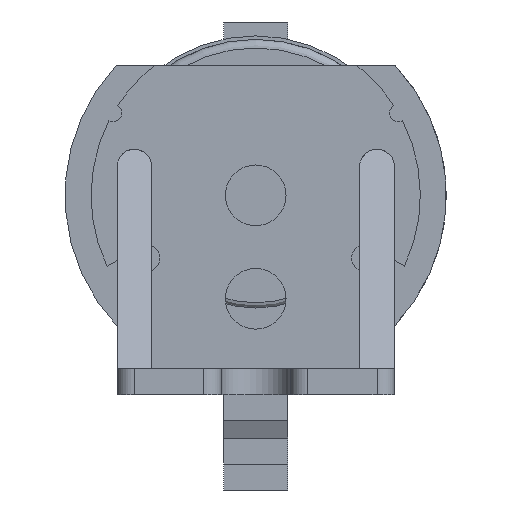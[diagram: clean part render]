
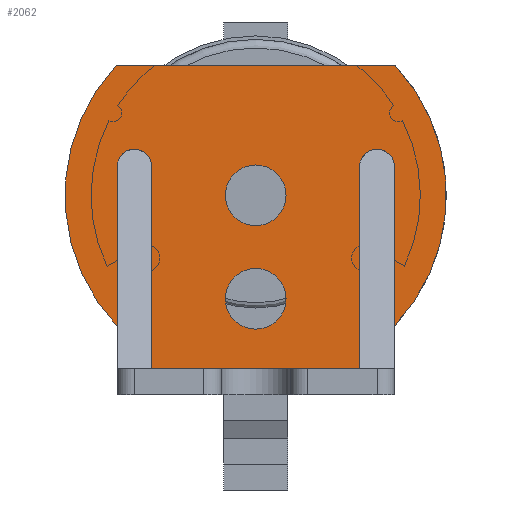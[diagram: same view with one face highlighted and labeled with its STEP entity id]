
A CAD part, left-side view. The second image highlights one B-rep face of the part: STEP entity #2062.
In plain terms, the highlighted planar face has unit normal (-1, 0, 0).
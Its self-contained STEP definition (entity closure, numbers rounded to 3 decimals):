
#14=CARTESIAN_POINT('',(4.,-7.,14.161));
#34=DIRECTION('',(0.,1.,0.));
#35=VECTOR('',#34,12.);
#36=CARTESIAN_POINT('',(4.,-6.,1.5));
#37=LINE('',#36,#35);
#87=CARTESIAN_POINT('',(4.,7.,13.161));
#88=DIRECTION('',(1.,0.,0.));
#89=DIRECTION('',(0.,1.,0.));
#90=AXIS2_PLACEMENT_3D('',#87,#88,#89);
#92=DIRECTION('',(0.,1.,0.));
#93=VECTOR('',#92,16.093);
#94=CARTESIAN_POINT('',(4.,-8.047,19.));
#95=LINE('',#94,#93);
#96=CARTESIAN_POINT('',(4.,0.,11.5));
#97=DIRECTION('',(-1.,0.,0.));
#98=DIRECTION('',(0.,-0.727,-0.686));
#99=AXIS2_PLACEMENT_3D('',#96,#97,#98);
#101=DIRECTION('',(0.,0.,-1.));
#102=VECTOR('',#101,9.211);
#103=CARTESIAN_POINT('',(4.,-8.,13.161));
#104=LINE('',#103,#102);
#105=CARTESIAN_POINT('',(4.,-7.,13.161));
#106=DIRECTION('',(1.,0.,0.));
#107=DIRECTION('',(0.,0.,1.));
#108=AXIS2_PLACEMENT_3D('',#105,#106,#107);
#110=CARTESIAN_POINT('',(4.,-7.,13.161));
#111=DIRECTION('',(1.,0.,0.));
#112=DIRECTION('',(0.,1.,0.));
#113=AXIS2_PLACEMENT_3D('',#110,#111,#112);
#115=DIRECTION('',(0.,0.,-1.));
#116=VECTOR('',#115,11.661);
#117=CARTESIAN_POINT('',(4.,6.,13.161));
#118=LINE('',#117,#116);
#119=CARTESIAN_POINT('',(4.,7.,13.161));
#120=DIRECTION('',(1.,0.,0.));
#121=DIRECTION('',(0.,0.,1.));
#122=AXIS2_PLACEMENT_3D('',#119,#120,#121);
#124=CARTESIAN_POINT('',(4.,0.,5.53));
#125=DIRECTION('',(1.,0.,0.));
#126=DIRECTION('',(0.,1.,0.));
#127=AXIS2_PLACEMENT_3D('',#124,#125,#126);
#129=CARTESIAN_POINT('',(4.,0.,5.53));
#130=DIRECTION('',(1.,0.,0.));
#131=DIRECTION('',(0.,-1.,0.));
#132=AXIS2_PLACEMENT_3D('',#129,#130,#131);
#134=CARTESIAN_POINT('',(4.,0.,11.5));
#135=DIRECTION('',(1.,0.,0.));
#136=DIRECTION('',(0.,1.,0.));
#137=AXIS2_PLACEMENT_3D('',#134,#135,#136);
#139=CARTESIAN_POINT('',(4.,0.,11.5));
#140=DIRECTION('',(1.,0.,0.));
#141=DIRECTION('',(0.,-1.,0.));
#142=AXIS2_PLACEMENT_3D('',#139,#140,#141);
#152=DIRECTION('',(0.,0.,-1.));
#153=VECTOR('',#152,9.211);
#154=CARTESIAN_POINT('',(4.,8.,13.161));
#155=LINE('',#154,#153);
#1353=CARTESIAN_POINT('',(4.,0.,11.5));
#1354=DIRECTION('',(-1.,0.,0.));
#1355=DIRECTION('',(0.,0.732,0.682));
#1356=AXIS2_PLACEMENT_3D('',#1353,#1354,#1355);
#1478=CARTESIAN_POINT('',(4.,7.,14.161));
#1502=DIRECTION('',(0.,0.,-1.));
#1503=VECTOR('',#1502,11.661);
#1504=CARTESIAN_POINT('',(4.,-6.,13.161));
#1505=LINE('',#1504,#1503);
#1710=CARTESIAN_POINT('',(4.,6.,1.5));
#1712=VERTEX_POINT('',#1710);
#1740=CARTESIAN_POINT('',(4.,-6.,1.5));
#1741=VERTEX_POINT('',#1740);
#1804=CARTESIAN_POINT('',(4.,8.047,19.));
#1806=VERTEX_POINT('',#1804);
#1809=CARTESIAN_POINT('',(4.,-8.047,19.));
#1811=VERTEX_POINT('',#1809);
#1814=CARTESIAN_POINT('',(4.,-8.,3.95));
#1816=VERTEX_POINT('',#1814);
#1830=CARTESIAN_POINT('',(4.,8.,13.161));
#1831=VERTEX_POINT('',#1830);
#1860=VERTEX_POINT('',#1478);
#1861=VERTEX_POINT('',#14);
#1863=CARTESIAN_POINT('',(4.,-6.,13.161));
#1864=VERTEX_POINT('',#1863);
#1865=CARTESIAN_POINT('',(4.,-1.75,11.5));
#1866=VERTEX_POINT('',#1865);
#1867=CARTESIAN_POINT('',(4.,1.75,11.5));
#1868=VERTEX_POINT('',#1867);
#1869=CARTESIAN_POINT('',(4.,-1.75,5.53));
#1870=VERTEX_POINT('',#1869);
#1871=CARTESIAN_POINT('',(4.,1.75,5.53));
#1872=VERTEX_POINT('',#1871);
#1877=CARTESIAN_POINT('',(4.,8.,3.95));
#1878=VERTEX_POINT('',#1877);
#1879=CARTESIAN_POINT('',(4.,-8.,13.161));
#1880=VERTEX_POINT('',#1879);
#1881=CARTESIAN_POINT('',(4.,6.,13.161));
#1882=VERTEX_POINT('',#1881);
#2023=CARTESIAN_POINT('',(4.,0.,11.5));
#2024=DIRECTION('',(-1.,0.,0.));
#2025=DIRECTION('',(0.,-1.,0.));
#2026=AXIS2_PLACEMENT_3D('',#2023,#2024,#2025);
#2027=PLANE('',#2026);
#2029=ORIENTED_EDGE('',*,*,#2028,.F.);
#2031=ORIENTED_EDGE('',*,*,#2030,.T.);
#2033=ORIENTED_EDGE('',*,*,#2032,.F.);
#2035=ORIENTED_EDGE('',*,*,#2034,.F.);
#2037=ORIENTED_EDGE('',*,*,#2036,.F.);
#2038=ORIENTED_EDGE('',*,*,#1925,.F.);
#2040=ORIENTED_EDGE('',*,*,#2039,.F.);
#2042=ORIENTED_EDGE('',*,*,#2041,.F.);
#2044=ORIENTED_EDGE('',*,*,#2043,.T.);
#2045=ORIENTED_EDGE('',*,*,#1964,.T.);
#2046=ORIENTED_EDGE('',*,*,#2002,.F.);
#2047=ORIENTED_EDGE('',*,*,#2015,.F.);
#2048=EDGE_LOOP('',(#2029,#2031,#2033,#2035,#2037,#2038,#2040,#2042,#2044,#2045,
#2046,#2047));
#2049=FACE_OUTER_BOUND('',#2048,.F.);
#2051=ORIENTED_EDGE('',*,*,#2050,.F.);
#2053=ORIENTED_EDGE('',*,*,#2052,.F.);
#2054=EDGE_LOOP('',(#2051,#2053));
#2055=FACE_BOUND('',#2054,.F.);
#2057=ORIENTED_EDGE('',*,*,#2056,.F.);
#2059=ORIENTED_EDGE('',*,*,#2058,.F.);
#2060=EDGE_LOOP('',(#2057,#2059));
#2061=FACE_BOUND('',#2060,.F.);
#2062=ADVANCED_FACE('',(#2049,#2055,#2061),#2027,.T.);
#91=CIRCLE('',#90,1.);
#100=CIRCLE('',#99,11.);
#109=CIRCLE('',#108,1.);
#114=CIRCLE('',#113,1.);
#123=CIRCLE('',#122,1.);
#128=CIRCLE('',#127,1.75);
#133=CIRCLE('',#132,1.75);
#138=CIRCLE('',#137,1.75);
#143=CIRCLE('',#142,1.75);
#1357=CIRCLE('',#1356,11.);
#1925=EDGE_CURVE('',#1880,#1816,#104,.T.);
#1964=EDGE_CURVE('',#1741,#1712,#37,.T.);
#2002=EDGE_CURVE('',#1882,#1712,#118,.T.);
#2015=EDGE_CURVE('',#1860,#1882,#123,.T.);
#2028=EDGE_CURVE('',#1831,#1860,#91,.T.);
#2030=EDGE_CURVE('',#1831,#1878,#155,.T.);
#2032=EDGE_CURVE('',#1806,#1878,#1357,.T.);
#2034=EDGE_CURVE('',#1811,#1806,#95,.T.);
#2036=EDGE_CURVE('',#1816,#1811,#100,.T.);
#2039=EDGE_CURVE('',#1861,#1880,#109,.T.);
#2041=EDGE_CURVE('',#1864,#1861,#114,.T.);
#2043=EDGE_CURVE('',#1864,#1741,#1505,.T.);
#2050=EDGE_CURVE('',#1872,#1870,#128,.T.);
#2052=EDGE_CURVE('',#1870,#1872,#133,.T.);
#2056=EDGE_CURVE('',#1868,#1866,#138,.T.);
#2058=EDGE_CURVE('',#1866,#1868,#143,.T.);
